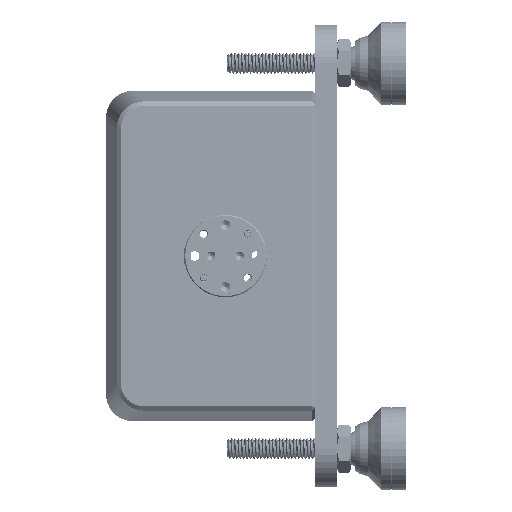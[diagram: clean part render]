
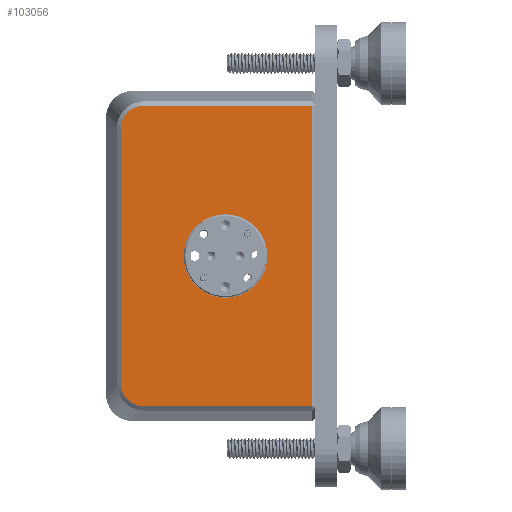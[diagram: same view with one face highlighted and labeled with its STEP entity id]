
A CAD part, left-side view. The second image highlights one B-rep face of the part: STEP entity #103056.
In plain terms, the highlighted planar face has unit normal (-1, 0, 0).
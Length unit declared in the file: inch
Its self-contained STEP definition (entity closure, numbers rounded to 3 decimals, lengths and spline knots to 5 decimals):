
#1416 = EDGE_CURVE ( 'NONE', #78386, #211065, #346084, .T. ) ;
#30146 = LINE ( 'NONE', #328574, #294841 ) ;
#32806 = LINE ( 'NONE', #113579, #247540 ) ;
#40401 = CARTESIAN_POINT ( 'NONE',  ( -4.25, -6.8667, 1.36508 ) ) ;
#45350 = DIRECTION ( 'NONE',  ( -1., 0., 0. ) ) ;
#48573 = CARTESIAN_POINT ( 'NONE',  ( -4.25, -6.6995, -1.28485 ) ) ;
#54611 = ORIENTED_EDGE ( 'NONE', *, *, #336441, .T. ) ;
#58746 = EDGE_CURVE ( 'NONE', #101310, #199296, #32806, .T. ) ;
#60522 = CARTESIAN_POINT ( 'NONE',  ( -4.25, -6.8667, 1.36508 ) ) ;
#62904 = CARTESIAN_POINT ( 'NONE',  ( -4.25, -6.76124, 1.33885 ) ) ;
#74136 = B_SPLINE_CURVE_WITH_KNOTS ( 'NONE', 3,
 ( #60522, #256077, #209879, #62904, #251229, #368597, #358910, #180376, #136541, #287959 ),
 .UNSPECIFIED., .F., .F.,
 ( 4, 2, 2, 2, 4 ),
 ( 0., 0.25, 0.5, 0.75, 1. ),
 .UNSPECIFIED. ) ;
#77944 = EDGE_CURVE ( 'NONE', #185740, #316325, #246240, .T. ) ;
#78386 = VERTEX_POINT ( 'NONE', #372771 ) ;
#84527 = CARTESIAN_POINT ( 'NONE',  ( -4.25, -7.47286, -1.36508 ) ) ;
#84642 = EDGE_CURVE ( 'NONE', #272035, #101310, #74136, .T. ) ;
#92708 = CARTESIAN_POINT ( 'NONE',  ( -4.25, -6.66321, -1.21114 ) ) ;
#96062 = FACE_BOUND ( 'NONE', #258371, .T. ) ;
#101310 = VERTEX_POINT ( 'NONE', #104793 ) ;
#103056 = ADVANCED_FACE ( 'NONE', ( #96062, #281823 ), #233590, .F. ) ;
#104793 = CARTESIAN_POINT ( 'NONE',  ( -4.25, -6.65778, 1.15616 ) ) ;
#113421 = AXIS2_PLACEMENT_3D ( 'NONE', #162897, #45350, #451507 ) ;
#113579 = CARTESIAN_POINT ( 'NONE',  ( -4.25, -6.65778, 0. ) ) ;
#116383 = DIRECTION ( 'NONE',  ( 0., -1., 0. ) ) ;
#120222 = DIRECTION ( 'NONE',  ( 0., 1., 0. ) ) ;
#128013 = VERTEX_POINT ( 'NONE', #469091 ) ;
#130356 = DIRECTION ( 'NONE',  ( 0., 0., -1. ) ) ;
#136541 = CARTESIAN_POINT ( 'NONE',  ( -4.25, -6.65778, 1.1837 ) ) ;
#141620 = DIRECTION ( 'NONE',  ( -1., 0., 0. ) ) ;
#159916 = ORIENTED_EDGE ( 'NONE', *, *, #1416, .T. ) ;
#160395 = DIRECTION ( 'NONE',  ( 1., 0., 0. ) ) ;
#162897 = CARTESIAN_POINT ( 'NONE',  ( -4.25, -7.60786, 0. ) ) ;
#180376 = CARTESIAN_POINT ( 'NONE',  ( -4.25, -6.66321, 1.21115 ) ) ;
#185740 = VERTEX_POINT ( 'NONE', #214177 ) ;
#199296 = VERTEX_POINT ( 'NONE', #312357 ) ;
#206174 = CARTESIAN_POINT ( 'NONE',  ( -4.25, -7.47286, 0. ) ) ;
#209879 = CARTESIAN_POINT ( 'NONE',  ( -4.25, -6.81171, 1.35964 ) ) ;
#211065 = VERTEX_POINT ( 'NONE', #414194 ) ;
#214177 = CARTESIAN_POINT ( 'NONE',  ( -4.25, -7.60786, 0.38 ) ) ;
#225474 = ORIENTED_EDGE ( 'NONE', *, *, #467449, .T. ) ;
#233590 = PLANE ( 'NONE',  #337656 ) ;
#234947 = LINE ( 'NONE', #457634, #236673 ) ;
#236673 = VECTOR ( 'NONE', #120222, 39.37008 ) ;
#239311 = CARTESIAN_POINT ( 'NONE',  ( -4.25, -6.65778, -1.15616 ) ) ;
#246240 = CIRCLE ( 'NONE', #113421, 0.38 ) ;
#247540 = VECTOR ( 'NONE', #438873, 39.37008 ) ;
#249272 = VECTOR ( 'NONE', #116383, 39.37008 ) ;
#250987 = ORIENTED_EDGE ( 'NONE', *, *, #77944, .F. ) ;
#251229 = CARTESIAN_POINT ( 'NONE',  ( -4.25, -6.738, 1.32336 ) ) ;
#256077 = CARTESIAN_POINT ( 'NONE',  ( -4.25, -6.83921, 1.36508 ) ) ;
#258273 = EDGE_LOOP ( 'NONE', ( #54611, #159916, #317352, #225474, #481808, #261760 ) ) ;
#258371 = EDGE_LOOP ( 'NONE', ( #250987, #289216 ) ) ;
#258717 = CARTESIAN_POINT ( 'NONE',  ( -4.25, -7.60786, 0. ) ) ;
#261760 = ORIENTED_EDGE ( 'NONE', *, *, #58746, .T. ) ;
#272035 = VERTEX_POINT ( 'NONE', #40401 ) ;
#281823 = FACE_OUTER_BOUND ( 'NONE', #258273, .T. ) ;
#287959 = CARTESIAN_POINT ( 'NONE',  ( -4.25, -6.65778, 1.15616 ) ) ;
#289216 = ORIENTED_EDGE ( 'NONE', *, *, #375167, .F. ) ;
#291623 = CARTESIAN_POINT ( 'NONE',  ( -4.25, -7.60786, -0.38 ) ) ;
#294841 = VECTOR ( 'NONE', #477724, 39.37008 ) ;
#307882 = CARTESIAN_POINT ( 'NONE',  ( -4.25, -6.8667, -1.36508 ) ) ;
#312357 = CARTESIAN_POINT ( 'NONE',  ( -4.25, -6.65778, -1.15616 ) ) ;
#312691 = CARTESIAN_POINT ( 'NONE',  ( -4.25, -6.738, -1.32336 ) ) ;
#316325 = VERTEX_POINT ( 'NONE', #291623 ) ;
#317352 = ORIENTED_EDGE ( 'NONE', *, *, #405317, .T. ) ;
#328574 = CARTESIAN_POINT ( 'NONE',  ( -4.25, -8.39286, 0. ) ) ;
#331598 = AXIS2_PLACEMENT_3D ( 'NONE', #258717, #141620, #408048 ) ;
#336441 = EDGE_CURVE ( 'NONE', #199296, #78386, #455945, .T. ) ;
#337656 = AXIS2_PLACEMENT_3D ( 'NONE', #206174, #160395, #130356 ) ;
#346084 = LINE ( 'NONE', #84527, #249272 ) ;
#351885 = CARTESIAN_POINT ( 'NONE',  ( -4.25, -6.65778, -1.18364 ) ) ;
#354302 = CARTESIAN_POINT ( 'NONE',  ( -4.25, -6.76124, -1.33884 ) ) ;
#358910 = CARTESIAN_POINT ( 'NONE',  ( -4.25, -6.68401, 1.26162 ) ) ;
#368597 = CARTESIAN_POINT ( 'NONE',  ( -4.25, -6.6995, 1.28486 ) ) ;
#372771 = CARTESIAN_POINT ( 'NONE',  ( -4.25, -6.8667, -1.36508 ) ) ;
#375167 = EDGE_CURVE ( 'NONE', #316325, #185740, #464586, .T. ) ;
#381381 = CARTESIAN_POINT ( 'NONE',  ( -4.25, -6.68401, -1.26162 ) ) ;
#386197 = CARTESIAN_POINT ( 'NONE',  ( -4.25, -6.81171, -1.35965 ) ) ;
#405317 = EDGE_CURVE ( 'NONE', #211065, #128013, #30146, .T. ) ;
#408048 = DIRECTION ( 'NONE',  ( 0., 0., 1. ) ) ;
#414194 = CARTESIAN_POINT ( 'NONE',  ( -4.25, -8.39286, -1.36508 ) ) ;
#438873 = DIRECTION ( 'NONE',  ( 0., 0., -1. ) ) ;
#451507 = DIRECTION ( 'NONE',  ( 0., 0., 1. ) ) ;
#455945 = B_SPLINE_CURVE_WITH_KNOTS ( 'NONE', 3,
 ( #239311, #351885, #92708, #381381, #48573, #312691, #354302, #386197, #457177, #307882 ),
 .UNSPECIFIED., .F., .F.,
 ( 4, 2, 2, 2, 4 ),
 ( 0., 0.25, 0.5, 0.75, 1. ),
 .UNSPECIFIED. ) ;
#457177 = CARTESIAN_POINT ( 'NONE',  ( -4.25, -6.83915, -1.36508 ) ) ;
#457634 = CARTESIAN_POINT ( 'NONE',  ( -4.25, -7.47286, 1.36508 ) ) ;
#464586 = CIRCLE ( 'NONE', #331598, 0.38 ) ;
#467449 = EDGE_CURVE ( 'NONE', #128013, #272035, #234947, .T. ) ;
#469091 = CARTESIAN_POINT ( 'NONE',  ( -4.25, -8.39286, 1.36508 ) ) ;
#477724 = DIRECTION ( 'NONE',  ( 0., 0., 1. ) ) ;
#481808 = ORIENTED_EDGE ( 'NONE', *, *, #84642, .T. ) ;
